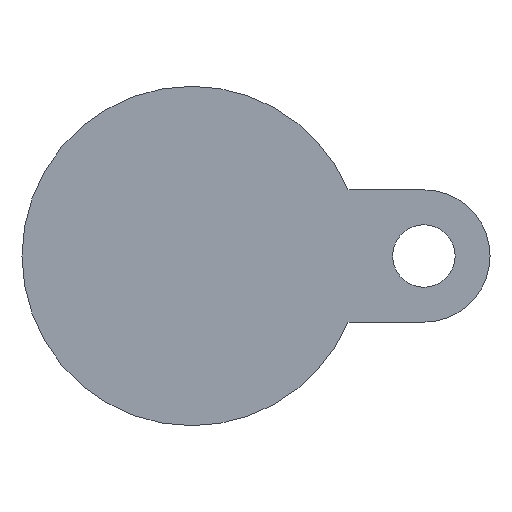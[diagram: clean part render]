
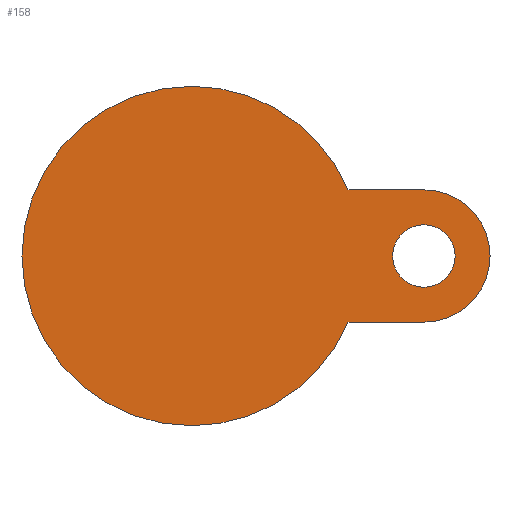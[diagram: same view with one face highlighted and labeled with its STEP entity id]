
A CAD part, front view. The second image highlights one B-rep face of the part: STEP entity #158.
In plain terms, the highlighted planar face has unit normal (0, -1, 0).
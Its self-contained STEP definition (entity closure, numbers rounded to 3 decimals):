
#2 = CARTESIAN_POINT ( 'NONE',  ( 0., -22., 0. ) ) ;
#158 = ADVANCED_FACE ( 'NONE', ( #863, #3701 ), #4177, .T. ) ;
#293 = VERTEX_POINT ( 'NONE', #969 ) ;
#305 = DIRECTION ( 'NONE',  ( 0., 0., 1. ) ) ;
#320 = CARTESIAN_POINT ( 'NONE',  ( 43.749, -22., 18.5 ) ) ;
#482 = VERTEX_POINT ( 'NONE', #4162 ) ;
#483 = EDGE_CURVE ( 'NONE', #4272, #293, #2073, .T. ) ;
#565 = CARTESIAN_POINT ( 'NONE',  ( 0., -22., 0. ) ) ;
#584 = EDGE_CURVE ( 'NONE', #293, #1675, #2934, .T. ) ;
#656 = CARTESIAN_POINT ( 'NONE',  ( 0., -22., 47.5 ) ) ;
#696 = DIRECTION ( 'NONE',  ( 0., -1., 0. ) ) ;
#810 = VERTEX_POINT ( 'NONE', #320 ) ;
#853 = CARTESIAN_POINT ( 'NONE',  ( 65., -22., 0. ) ) ;
#863 = FACE_OUTER_BOUND ( 'NONE', #2387, .T. ) ;
#969 = CARTESIAN_POINT ( 'NONE',  ( 65., -22., -18.5 ) ) ;
#1015 = ORIENTED_EDGE ( 'NONE', *, *, #2365, .F. ) ;
#1276 = AXIS2_PLACEMENT_3D ( 'NONE', #565, #5131, #1341 ) ;
#1333 = CARTESIAN_POINT ( 'NONE',  ( 65., -22., -8.75 ) ) ;
#1337 = LINE ( 'NONE', #2614, #2335 ) ;
#1341 = DIRECTION ( 'NONE',  ( 0., 0., 1. ) ) ;
#1353 = DIRECTION ( 'NONE',  ( 0., -1., 0. ) ) ;
#1490 = EDGE_CURVE ( 'NONE', #3289, #810, #4428, .T. ) ;
#1536 = AXIS2_PLACEMENT_3D ( 'NONE', #853, #696, #2095 ) ;
#1556 = DIRECTION ( 'NONE',  ( 0., 1., 0. ) ) ;
#1588 = DIRECTION ( 'NONE',  ( 0., -1., 0. ) ) ;
#1668 = DIRECTION ( 'NONE',  ( 0., 0., -1. ) ) ;
#1675 = VERTEX_POINT ( 'NONE', #4759 ) ;
#1738 = ORIENTED_EDGE ( 'NONE', *, *, #3502, .F. ) ;
#1750 = ORIENTED_EDGE ( 'NONE', *, *, #483, .T. ) ;
#1858 = DIRECTION ( 'NONE',  ( 0., 0., -1. ) ) ;
#1883 = AXIS2_PLACEMENT_3D ( 'NONE', #3359, #1353, #5088 ) ;
#1941 = DIRECTION ( 'NONE',  ( 0., -1., 0. ) ) ;
#1990 = DIRECTION ( 'NONE',  ( 1., 0., 0. ) ) ;
#2034 = ORIENTED_EDGE ( 'NONE', *, *, #2869, .F. ) ;
#2043 = VECTOR ( 'NONE', #1990, 1000. ) ;
#2073 = LINE ( 'NONE', #3229, #2043 ) ;
#2095 = DIRECTION ( 'NONE',  ( 0., 0., -1. ) ) ;
#2194 = DIRECTION ( 'NONE',  ( -1., 0., 0. ) ) ;
#2335 = VECTOR ( 'NONE', #2194, 1000. ) ;
#2365 = EDGE_CURVE ( 'NONE', #3032, #3289, #2835, .T. ) ;
#2370 = CARTESIAN_POINT ( 'NONE',  ( 43.749, -22., -18.5 ) ) ;
#2386 = CARTESIAN_POINT ( 'NONE',  ( 0., -22., 0. ) ) ;
#2387 = EDGE_LOOP ( 'NONE', ( #2857, #4678, #1015, #1738, #1750, #3762 ) ) ;
#2614 = CARTESIAN_POINT ( 'NONE',  ( 28.666, -22., 18.5 ) ) ;
#2835 = CIRCLE ( 'NONE', #5047, 47.5 ) ;
#2857 = ORIENTED_EDGE ( 'NONE', *, *, #4589, .T. ) ;
#2869 = EDGE_CURVE ( 'NONE', #482, #3850, #3794, .T. ) ;
#2934 = CIRCLE ( 'NONE', #1883, 18.5 ) ;
#3032 = VERTEX_POINT ( 'NONE', #3258 ) ;
#3068 = EDGE_CURVE ( 'NONE', #3850, #482, #4805, .T. ) ;
#3092 = CARTESIAN_POINT ( 'NONE',  ( 65., -22., 0. ) ) ;
#3229 = CARTESIAN_POINT ( 'NONE',  ( 65., -22., -18.5 ) ) ;
#3258 = CARTESIAN_POINT ( 'NONE',  ( 0., -22., -47.5 ) ) ;
#3289 = VERTEX_POINT ( 'NONE', #656 ) ;
#3359 = CARTESIAN_POINT ( 'NONE',  ( 65., -22., 0. ) ) ;
#3391 = CARTESIAN_POINT ( 'NONE',  ( 0., -22., 0. ) ) ;
#3447 = AXIS2_PLACEMENT_3D ( 'NONE', #3391, #3864, #4733 ) ;
#3502 = EDGE_CURVE ( 'NONE', #4272, #3032, #3649, .T. ) ;
#3649 = CIRCLE ( 'NONE', #1276, 47.5 ) ;
#3701 = FACE_BOUND ( 'NONE', #4602, .T. ) ;
#3762 = ORIENTED_EDGE ( 'NONE', *, *, #584, .T. ) ;
#3794 = CIRCLE ( 'NONE', #5158, 8.75 ) ;
#3850 = VERTEX_POINT ( 'NONE', #1333 ) ;
#3864 = DIRECTION ( 'NONE',  ( 0., 1., 0. ) ) ;
#4162 = CARTESIAN_POINT ( 'NONE',  ( 65., -22., 8.75 ) ) ;
#4177 = PLANE ( 'NONE',  #4762 ) ;
#4272 = VERTEX_POINT ( 'NONE', #2370 ) ;
#4428 = CIRCLE ( 'NONE', #3447, 47.5 ) ;
#4589 = EDGE_CURVE ( 'NONE', #1675, #810, #1337, .T. ) ;
#4602 = EDGE_LOOP ( 'NONE', ( #4990, #2034 ) ) ;
#4678 = ORIENTED_EDGE ( 'NONE', *, *, #1490, .F. ) ;
#4733 = DIRECTION ( 'NONE',  ( 0., 0., 1. ) ) ;
#4759 = CARTESIAN_POINT ( 'NONE',  ( 65., -22., 18.5 ) ) ;
#4762 = AXIS2_PLACEMENT_3D ( 'NONE', #2, #1588, #1668 ) ;
#4805 = CIRCLE ( 'NONE', #1536, 8.75 ) ;
#4990 = ORIENTED_EDGE ( 'NONE', *, *, #3068, .F. ) ;
#5047 = AXIS2_PLACEMENT_3D ( 'NONE', #2386, #1556, #305 ) ;
#5088 = DIRECTION ( 'NONE',  ( 0., 0., -1. ) ) ;
#5131 = DIRECTION ( 'NONE',  ( 0., 1., 0. ) ) ;
#5158 = AXIS2_PLACEMENT_3D ( 'NONE', #3092, #1941, #1858 ) ;
